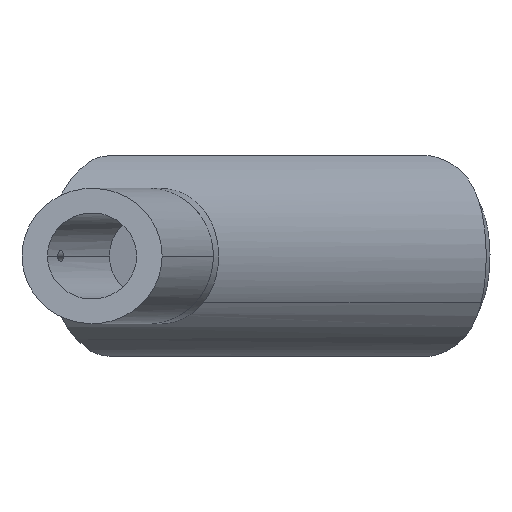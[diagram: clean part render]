
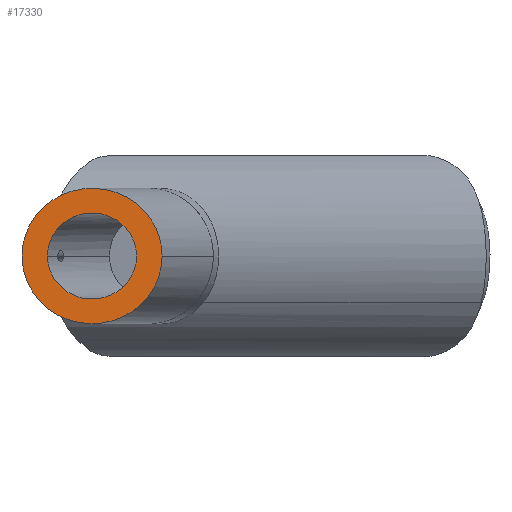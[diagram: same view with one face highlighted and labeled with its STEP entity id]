
A CAD part, front view. The second image highlights one B-rep face of the part: STEP entity #17330.
In plain terms, the highlighted planar face has unit normal (0, -1, 0) as drawn and (0.259, -0.966, 0) by its records, which use the part's own axes.
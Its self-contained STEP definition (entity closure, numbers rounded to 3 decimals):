
#4480=CARTESIAN_POINT('',(-27.5,-7.369,0.));
#4490=VERTEX_POINT('',#4480);
#6820=CARTESIAN_POINT('',(27.5,7.369,
0.));
#6830=VERTEX_POINT('',#6820);
#6860=CARTESIAN_POINT('',(0.,0.,0.));
#6870=DIRECTION('',(-0.259,0.966,0.));
#6880=DIRECTION('',(0.966,0.259,0.));
#6890=AXIS2_PLACEMENT_3D('',#6860,#6870,#6880);
#6900=ELLIPSE('',#6890,28.47,27.5);
#6910=EDGE_CURVE('',#4490,#6830,#6900,.T.);
#7680=CARTESIAN_POINT('',(17.5,4.689,
0.));
#7690=VERTEX_POINT('',#7680);
#7720=CARTESIAN_POINT('',(0.,0.,0.));
#7730=DIRECTION('',(-0.259,0.966,0.));
#7740=DIRECTION('',(0.966,0.259,0.));
#7750=AXIS2_PLACEMENT_3D('',#7720,#7730,#7740);
#7760=ELLIPSE('',#7750,18.117,17.5);
#7770=CARTESIAN_POINT('',(-17.5,-4.689,0.));
#7780=VERTEX_POINT('',#7770);
#7790=EDGE_CURVE('',#7690,#7780,#7760,.T.);
#17180=CARTESIAN_POINT('',(-71.873,-19.258,
-33.));
#17190=DIRECTION('',(-0.259,0.966,0.));
#17200=DIRECTION('',(0.966,0.259,0.));
#17210=AXIS2_PLACEMENT_3D('',#17180,#17190,#17200);
#17220=PLANE('',#17210);
#17230=EDGE_CURVE('',#6830,#4490,#6900,.T.);
#17240=ORIENTED_EDGE('',*,*,#17230,.F.);
#17250=ORIENTED_EDGE('',*,*,#6910,.F.);
#17260=EDGE_LOOP('',(#17250,#17240));
#17270=FACE_OUTER_BOUND('',#17260,.T.);
#17280=EDGE_CURVE('',#7780,#7690,#7760,.T.);
#17290=ORIENTED_EDGE('',*,*,#17280,.T.);
#17300=ORIENTED_EDGE('',*,*,#7790,.T.);
#17310=EDGE_LOOP('',(#17300,#17290));
#17320=FACE_BOUND('',#17310,.T.);
#17330=ADVANCED_FACE('',(#17270,#17320),#17220,.F.);
